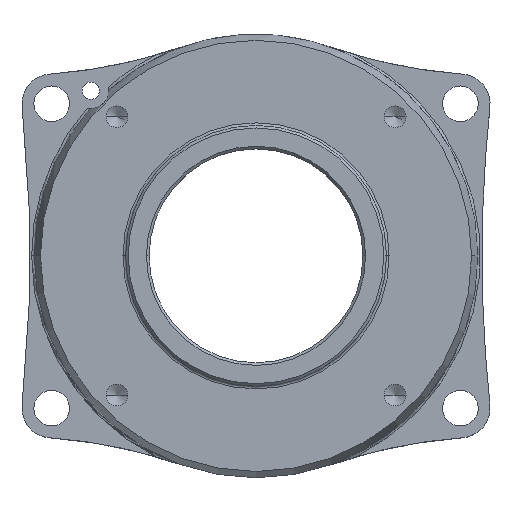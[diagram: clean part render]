
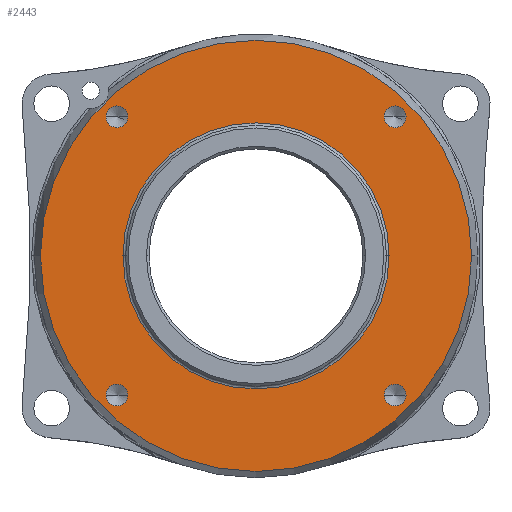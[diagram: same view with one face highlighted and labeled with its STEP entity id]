
A CAD part, top view. The second image highlights one B-rep face of the part: STEP entity #2443.
In plain terms, the highlighted planar face has unit normal (0, 0, 1).
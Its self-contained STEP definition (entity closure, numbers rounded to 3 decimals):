
#21 = EDGE_LOOP ( 'NONE', ( #522, #1053 ) ) ;
#33 = VERTEX_POINT ( 'NONE', #1516 ) ;
#49 = EDGE_CURVE ( 'NONE', #214, #478, #2620, .T. ) ;
#50 = FACE_BOUND ( 'NONE', #1795, .T. ) ;
#62 = DIRECTION ( 'NONE',  ( 1., 0., 0. ) ) ;
#83 = VERTEX_POINT ( 'NONE', #2622 ) ;
#91 = CIRCLE ( 'NONE', #2636, 24.791 ) ;
#95 = AXIS2_PLACEMENT_3D ( 'NONE', #278, #322, #1737 ) ;
#104 = CARTESIAN_POINT ( 'NONE',  ( 14.75, 16., 7.2 ) ) ;
#176 = VERTEX_POINT ( 'NONE', #2215 ) ;
#203 = VERTEX_POINT ( 'NONE', #225 ) ;
#214 = VERTEX_POINT ( 'NONE', #647 ) ;
#225 = CARTESIAN_POINT ( 'NONE',  ( -24.791, 0., 7.2 ) ) ;
#242 = DIRECTION ( 'NONE',  ( -1., 0., 0. ) ) ;
#262 = FACE_BOUND ( 'NONE', #21, .T. ) ;
#264 = AXIS2_PLACEMENT_3D ( 'NONE', #2527, #2157, #62 ) ;
#278 = CARTESIAN_POINT ( 'NONE',  ( 0., 15., 7.2 ) ) ;
#286 = DIRECTION ( 'NONE',  ( 1., 0., 0. ) ) ;
#292 = FACE_OUTER_BOUND ( 'NONE', #729, .T. ) ;
#294 = CIRCLE ( 'NONE', #2518, 15.3 ) ;
#297 = CIRCLE ( 'NONE', #424, 1.25 ) ;
#303 = AXIS2_PLACEMENT_3D ( 'NONE', #2562, #545, #2336 ) ;
#322 = DIRECTION ( 'NONE',  ( 0., 0., -1. ) ) ;
#382 = CIRCLE ( 'NONE', #2136, 1.25 ) ;
#424 = AXIS2_PLACEMENT_3D ( 'NONE', #2460, #448, #1018 ) ;
#443 = EDGE_CURVE ( 'NONE', #2605, #33, #2389, .T. ) ;
#448 = DIRECTION ( 'NONE',  ( 0., 0., 1. ) ) ;
#451 = DIRECTION ( 'NONE',  ( 0., 0., 1. ) ) ;
#466 = AXIS2_PLACEMENT_3D ( 'NONE', #1777, #613, #1244 ) ;
#478 = VERTEX_POINT ( 'NONE', #666 ) ;
#491 = CARTESIAN_POINT ( 'NONE',  ( 16., -16., 7.2 ) ) ;
#522 = ORIENTED_EDGE ( 'NONE', *, *, #49, .F. ) ;
#525 = PLANE ( 'NONE',  #95 ) ;
#545 = DIRECTION ( 'NONE',  ( 0., 0., 1. ) ) ;
#546 = VERTEX_POINT ( 'NONE', #1282 ) ;
#613 = DIRECTION ( 'NONE',  ( 0., 0., 1. ) ) ;
#617 = CARTESIAN_POINT ( 'NONE',  ( -16., 16., 7.2 ) ) ;
#647 = CARTESIAN_POINT ( 'NONE',  ( -14.75, -16., 7.2 ) ) ;
#666 = CARTESIAN_POINT ( 'NONE',  ( -17.25, -16., 7.2 ) ) ;
#668 = DIRECTION ( 'NONE',  ( 0., 0., 1. ) ) ;
#671 = VERTEX_POINT ( 'NONE', #2326 ) ;
#685 = ORIENTED_EDGE ( 'NONE', *, *, #2149, .T. ) ;
#729 = EDGE_LOOP ( 'NONE', ( #2256, #847 ) ) ;
#730 = CARTESIAN_POINT ( 'NONE',  ( 0., 0., 7.2 ) ) ;
#760 = EDGE_CURVE ( 'NONE', #33, #2605, #1097, .T. ) ;
#800 = CARTESIAN_POINT ( 'NONE',  ( 0., 0., 7.2 ) ) ;
#828 = DIRECTION ( 'NONE',  ( 1., 0., 0. ) ) ;
#847 = ORIENTED_EDGE ( 'NONE', *, *, #1349, .T. ) ;
#887 = ORIENTED_EDGE ( 'NONE', *, *, #2132, .F. ) ;
#894 = DIRECTION ( 'NONE',  ( 0., 0., 1. ) ) ;
#898 = CIRCLE ( 'NONE', #1162, 15.3 ) ;
#902 = EDGE_CURVE ( 'NONE', #1773, #671, #294, .T. ) ;
#955 = CIRCLE ( 'NONE', #1290, 1.25 ) ;
#981 = CARTESIAN_POINT ( 'NONE',  ( 0., 0., 7.2 ) ) ;
#1002 = ORIENTED_EDGE ( 'NONE', *, *, #1871, .F. ) ;
#1018 = DIRECTION ( 'NONE',  ( 1., 0., 0. ) ) ;
#1053 = ORIENTED_EDGE ( 'NONE', *, *, #2216, .F. ) ;
#1097 = CIRCLE ( 'NONE', #2383, 1.25 ) ;
#1113 = FACE_BOUND ( 'NONE', #1859, .T. ) ;
#1123 = CIRCLE ( 'NONE', #264, 1.25 ) ;
#1134 = CIRCLE ( 'NONE', #2456, 24.791 ) ;
#1162 = AXIS2_PLACEMENT_3D ( 'NONE', #800, #1624, #242 ) ;
#1208 = DIRECTION ( 'NONE',  ( 1., 0., 0. ) ) ;
#1244 = DIRECTION ( 'NONE',  ( 1., 0., 0. ) ) ;
#1247 = CARTESIAN_POINT ( 'NONE',  ( 16., 16., 7.2 ) ) ;
#1282 = CARTESIAN_POINT ( 'NONE',  ( -17.25, 16., 7.2 ) ) ;
#1290 = AXIS2_PLACEMENT_3D ( 'NONE', #617, #1842, #1434 ) ;
#1348 = FACE_BOUND ( 'NONE', #1655, .T. ) ;
#1349 = EDGE_CURVE ( 'NONE', #1954, #203, #1134, .T. ) ;
#1366 = DIRECTION ( 'NONE',  ( 1., 0., 0. ) ) ;
#1426 = EDGE_CURVE ( 'NONE', #203, #1954, #91, .T. ) ;
#1434 = DIRECTION ( 'NONE',  ( 1., 0., 0. ) ) ;
#1498 = ORIENTED_EDGE ( 'NONE', *, *, #902, .T. ) ;
#1516 = CARTESIAN_POINT ( 'NONE',  ( 17.25, 16., 7.2 ) ) ;
#1565 = ORIENTED_EDGE ( 'NONE', *, *, #1756, .F. ) ;
#1587 = DIRECTION ( 'NONE',  ( -1., 0., 0. ) ) ;
#1616 = DIRECTION ( 'NONE',  ( 0., 0., 1. ) ) ;
#1624 = DIRECTION ( 'NONE',  ( 0., 0., -1. ) ) ;
#1647 = CARTESIAN_POINT ( 'NONE',  ( -14.75, 16., 7.2 ) ) ;
#1655 = EDGE_LOOP ( 'NONE', ( #1565, #1002 ) ) ;
#1673 = ORIENTED_EDGE ( 'NONE', *, *, #760, .F. ) ;
#1703 = CARTESIAN_POINT ( 'NONE',  ( 16., 16., 7.2 ) ) ;
#1737 = DIRECTION ( 'NONE',  ( -1., 0., 0. ) ) ;
#1756 = EDGE_CURVE ( 'NONE', #2662, #546, #955, .T. ) ;
#1773 = VERTEX_POINT ( 'NONE', #2239 ) ;
#1777 = CARTESIAN_POINT ( 'NONE',  ( 16., -16., 7.2 ) ) ;
#1795 = EDGE_LOOP ( 'NONE', ( #2394, #887 ) ) ;
#1842 = DIRECTION ( 'NONE',  ( 0., 0., 1. ) ) ;
#1859 = EDGE_LOOP ( 'NONE', ( #685, #1498 ) ) ;
#1871 = EDGE_CURVE ( 'NONE', #546, #2662, #1123, .T. ) ;
#1944 = CARTESIAN_POINT ( 'NONE',  ( 24.791, 0., 7.2 ) ) ;
#1954 = VERTEX_POINT ( 'NONE', #1944 ) ;
#1967 = EDGE_CURVE ( 'NONE', #176, #83, #382, .T. ) ;
#1978 = ORIENTED_EDGE ( 'NONE', *, *, #443, .F. ) ;
#2047 = CIRCLE ( 'NONE', #466, 1.25 ) ;
#2132 = EDGE_CURVE ( 'NONE', #83, #176, #2047, .T. ) ;
#2136 = AXIS2_PLACEMENT_3D ( 'NONE', #491, #668, #2513 ) ;
#2149 = EDGE_CURVE ( 'NONE', #671, #1773, #898, .T. ) ;
#2157 = DIRECTION ( 'NONE',  ( 0., 0., 1. ) ) ;
#2161 = FACE_BOUND ( 'NONE', #2496, .T. ) ;
#2199 = DIRECTION ( 'NONE',  ( 0., 0., 1. ) ) ;
#2215 = CARTESIAN_POINT ( 'NONE',  ( 17.25, -16., 7.2 ) ) ;
#2216 = EDGE_CURVE ( 'NONE', #478, #214, #297, .T. ) ;
#2239 = CARTESIAN_POINT ( 'NONE',  ( 15.3, 0., 7.2 ) ) ;
#2256 = ORIENTED_EDGE ( 'NONE', *, *, #1426, .T. ) ;
#2326 = CARTESIAN_POINT ( 'NONE',  ( -15.3, 0., 7.2 ) ) ;
#2336 = DIRECTION ( 'NONE',  ( 1., 0., 0. ) ) ;
#2369 = DIRECTION ( 'NONE',  ( 0., 0., -1. ) ) ;
#2383 = AXIS2_PLACEMENT_3D ( 'NONE', #1703, #894, #286 ) ;
#2389 = CIRCLE ( 'NONE', #2507, 1.25 ) ;
#2394 = ORIENTED_EDGE ( 'NONE', *, *, #1967, .F. ) ;
#2413 = CARTESIAN_POINT ( 'NONE',  ( 0., 0., 7.2 ) ) ;
#2443 = ADVANCED_FACE ( 'NONE', ( #1113, #1348, #2161, #50, #262, #292 ), #525, .F. ) ;
#2456 = AXIS2_PLACEMENT_3D ( 'NONE', #981, #1616, #1208 ) ;
#2460 = CARTESIAN_POINT ( 'NONE',  ( -16., -16., 7.2 ) ) ;
#2496 = EDGE_LOOP ( 'NONE', ( #1673, #1978 ) ) ;
#2507 = AXIS2_PLACEMENT_3D ( 'NONE', #1247, #451, #828 ) ;
#2513 = DIRECTION ( 'NONE',  ( 1., 0., 0. ) ) ;
#2518 = AXIS2_PLACEMENT_3D ( 'NONE', #730, #2369, #1587 ) ;
#2527 = CARTESIAN_POINT ( 'NONE',  ( -16., 16., 7.2 ) ) ;
#2562 = CARTESIAN_POINT ( 'NONE',  ( -16., -16., 7.2 ) ) ;
#2605 = VERTEX_POINT ( 'NONE', #104 ) ;
#2620 = CIRCLE ( 'NONE', #303, 1.25 ) ;
#2622 = CARTESIAN_POINT ( 'NONE',  ( 14.75, -16., 7.2 ) ) ;
#2636 = AXIS2_PLACEMENT_3D ( 'NONE', #2413, #2199, #1366 ) ;
#2662 = VERTEX_POINT ( 'NONE', #1647 ) ;
